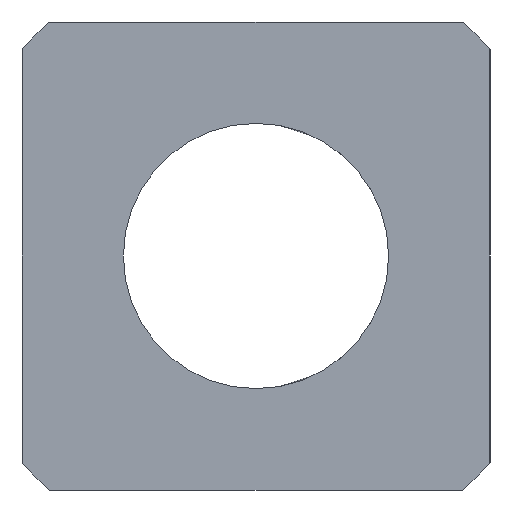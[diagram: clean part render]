
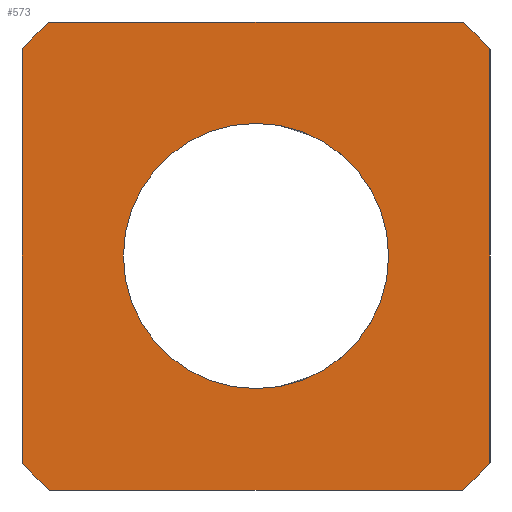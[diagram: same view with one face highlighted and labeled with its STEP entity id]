
A CAD part, left-side view. The second image highlights one B-rep face of the part: STEP entity #573.
In plain terms, the highlighted planar face has unit normal (-1, 0, 0).
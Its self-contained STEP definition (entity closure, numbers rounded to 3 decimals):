
#17=LINE($,#1188,#49);
#18=LINE($,#1192,#50);
#19=LINE($,#1196,#51);
#20=LINE($,#1200,#52);
#49=VECTOR($,#736,52.915);
#50=VECTOR($,#739,52.915);
#51=VECTOR($,#742,52.915);
#52=VECTOR($,#745,52.915);
#106=PLANE($,#629);
#135=FACE_BOUND($,#217,.T.);
#136=FACE_BOUND($,#218,.T.);
#217=EDGE_LOOP($,(#452));
#218=EDGE_LOOP($,(#453,#454,#455,#456,#457,#458,#459,#460));
#256=CIRCLE($,#602,17.);
#272=CIRCLE($,#630,40.);
#273=CIRCLE($,#631,40.);
#274=CIRCLE($,#632,40.);
#275=CIRCLE($,#633,40.);
#288=VERTEX_POINT($,#838);
#316=VERTEX_POINT($,#1186);
#317=VERTEX_POINT($,#1187);
#318=VERTEX_POINT($,#1189);
#319=VERTEX_POINT($,#1191);
#320=VERTEX_POINT($,#1193);
#321=VERTEX_POINT($,#1195);
#322=VERTEX_POINT($,#1197);
#323=VERTEX_POINT($,#1199);
#344=EDGE_CURVE($,#288,#288,#256,.T.);
#372=EDGE_CURVE($,#316,#317,#17,.T.);
#373=EDGE_CURVE($,#318,#317,#272,.T.);
#374=EDGE_CURVE($,#318,#319,#18,.T.);
#375=EDGE_CURVE($,#320,#319,#273,.T.);
#376=EDGE_CURVE($,#320,#321,#19,.T.);
#377=EDGE_CURVE($,#322,#321,#274,.T.);
#378=EDGE_CURVE($,#322,#323,#20,.T.);
#379=EDGE_CURVE($,#316,#323,#275,.T.);
#452=ORIENTED_EDGE($,*,*,#344,.T.);
#453=ORIENTED_EDGE($,*,*,#372,.T.);
#454=ORIENTED_EDGE($,*,*,#373,.F.);
#455=ORIENTED_EDGE($,*,*,#374,.T.);
#456=ORIENTED_EDGE($,*,*,#375,.F.);
#457=ORIENTED_EDGE($,*,*,#376,.T.);
#458=ORIENTED_EDGE($,*,*,#377,.F.);
#459=ORIENTED_EDGE($,*,*,#378,.T.);
#460=ORIENTED_EDGE($,*,*,#379,.F.);
#573=ADVANCED_FACE($,(#135,#136),#106,.T.);
#602=AXIS2_PLACEMENT_3D($,#839,#676,#677);
#629=AXIS2_PLACEMENT_3D($,#1185,#734,#735);
#630=AXIS2_PLACEMENT_3D($,#1190,#737,#738);
#631=AXIS2_PLACEMENT_3D($,#1194,#740,#741);
#632=AXIS2_PLACEMENT_3D($,#1198,#743,#744);
#633=AXIS2_PLACEMENT_3D($,#1201,#746,#747);
#676=DIRECTION('center_axis',(1.,0.,0.));
#677=DIRECTION('ref_axis',(0.,0.,-1.));
#734=DIRECTION('center_axis',(-1.,0.,0.));
#735=DIRECTION('ref_axis',(0.,0.,1.));
#736=DIRECTION($,(0.,0.,-1.));
#737=DIRECTION('center_axis',(1.,0.,0.));
#738=DIRECTION('ref_axis',(0.,1.,0.));
#739=DIRECTION($,(0.,-1.,0.));
#740=DIRECTION('center_axis',(1.,0.,0.));
#741=DIRECTION('ref_axis',(0.,1.,0.));
#742=DIRECTION($,(0.,0.,1.));
#743=DIRECTION('center_axis',(1.,0.,0.));
#744=DIRECTION('ref_axis',(0.,1.,0.));
#745=DIRECTION($,(0.,1.,0.));
#746=DIRECTION('center_axis',(1.,0.,0.));
#747=DIRECTION('ref_axis',(0.,1.,0.));
#838=CARTESIAN_POINT('',(-2.,0.,17.));
#839=CARTESIAN_POINT('Origin',(-2.,0.,0.));
#1185=CARTESIAN_POINT('Origin',(-2.,29.525,0.));
#1186=CARTESIAN_POINT('',(-2.,30.,26.458));
#1187=CARTESIAN_POINT('',(-2.,30.,-26.458));
#1188=CARTESIAN_POINT($,(-2.,30.,-13.229));
#1189=CARTESIAN_POINT('',(-2.,26.458,-30.));
#1190=CARTESIAN_POINT('Origin',(-2.,0.,0.));
#1191=CARTESIAN_POINT('',(-2.,-26.458,-30.));
#1192=CARTESIAN_POINT($,(-2.,1.534,-30.));
#1193=CARTESIAN_POINT('',(-2.,-30.,-26.458));
#1194=CARTESIAN_POINT('Origin',(-2.,0.,0.));
#1195=CARTESIAN_POINT('',(-2.,-30.,26.458));
#1196=CARTESIAN_POINT($,(-2.,-30.,13.229));
#1197=CARTESIAN_POINT('',(-2.,-26.458,30.));
#1198=CARTESIAN_POINT('Origin',(-2.,0.,0.));
#1199=CARTESIAN_POINT('',(-2.,26.458,30.));
#1200=CARTESIAN_POINT($,(-2.,27.991,30.));
#1201=CARTESIAN_POINT('Origin',(-2.,0.,0.));
